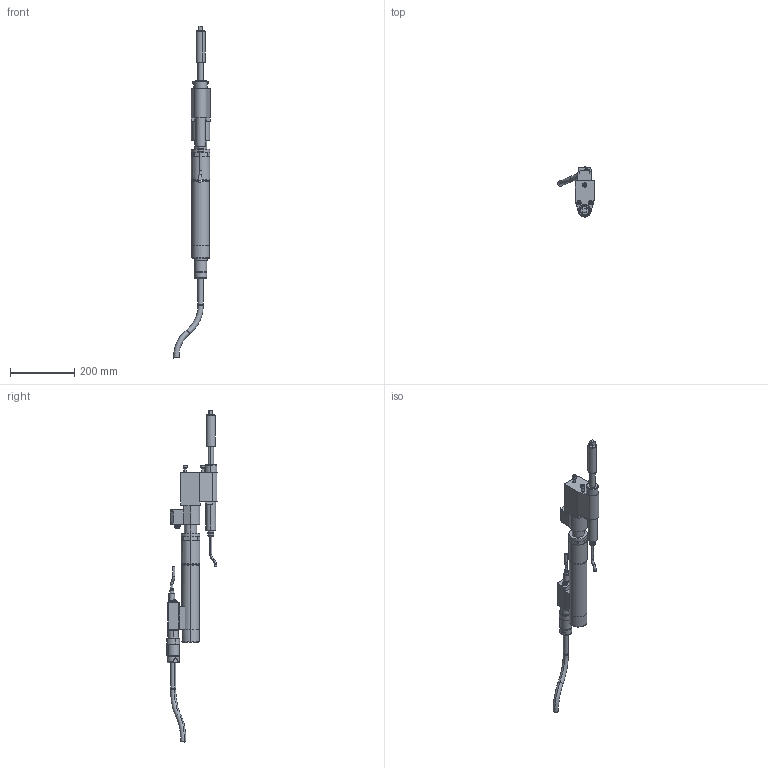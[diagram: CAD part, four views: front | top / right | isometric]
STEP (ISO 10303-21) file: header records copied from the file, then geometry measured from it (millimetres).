
FILE_DESCRIPTION(('CATIA V5 STEP Exchange'),'2;1');
FILE_NAME('C:\pro\7920185_ECR205_DWR63_AOD250-63_AllCATPart.stp','2008-11-10T09:30:26+00:00',('none'),('none'),'CATIA Version 5 Release 17 (IN-10)','CATIA V5 STEP AP203','none');
FILE_SCHEMA(('CONFIG_CONTROL_DESIGN'));
Length unit declared in the file: millimetre
Products named in the file (1): 7920185_ECR205_DWR63_AOD250-63_AllCATPart
Bounding box: 113.82 x 157.13 x 1035.06 mm (x, y, z)
Volume: 2208599.5 mm3; surface area: 236873.5 mm2
Topology: 14 solids, 14 shells, 440 faces, 1008 edges, 631 vertices
Faces by surface type: plane 195, cylinder 155, cone 52, torus 38
Entity records: 11656 total; most frequent: CARTESIAN_POINT 2304, ORIENTED_EDGE 1996, DIRECTION 1622, EDGE_CURVE 998, AXIS2_PLACEMENT_3D 773, VERTEX_POINT 631, VECTOR 520, LINE 520
